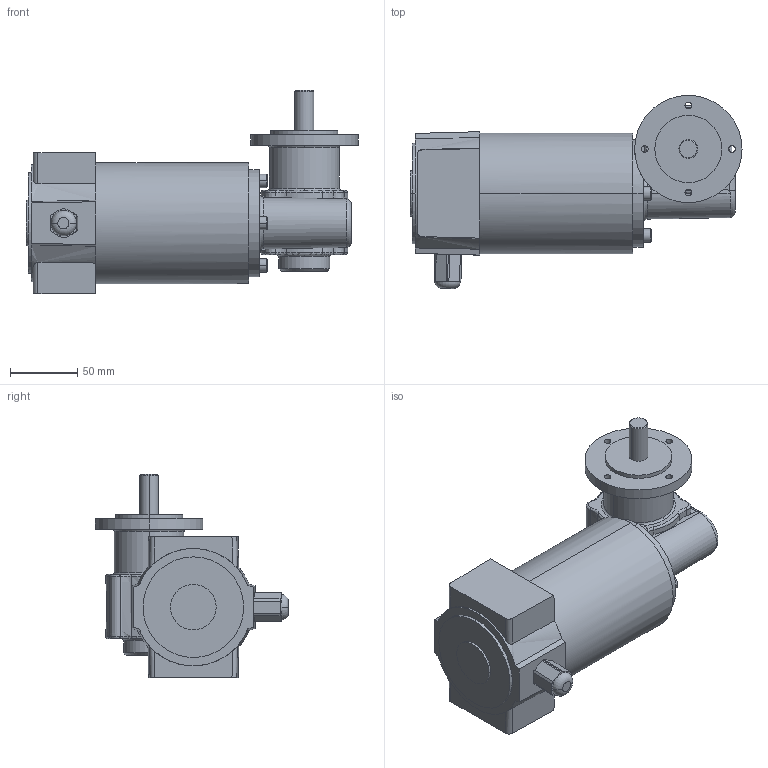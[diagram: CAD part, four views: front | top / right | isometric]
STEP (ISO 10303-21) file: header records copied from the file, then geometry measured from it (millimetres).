
FILE_DESCRIPTION(('OneSpaceDesigner STEP Export'),'2;1');
FILE_NAME('EPG21_GF133.stp','2008-07-10T 8:33:34',(''),(''),'OneSpace Designer STEP processor (Jan. 2003) for AP214(CD)(Solid Model)','OneSpace Designer 12.01D 09-Jul-2004 (C) CoCreate Software GmbH','');
FILE_SCHEMA(('AUTOMOTIVE_DESIGN_CC2 {1 2 10303 214 -1 1 5 1}'));
Length unit declared in the file: millimetre
Products named in the file (2): EPG21_GF133
Assembly tree (1 placements, depth 2):
  EPG21_GF133
    EPG21_GF133
Bounding box: 247.5 x 143.99 x 151.5 mm (x, y, z)
Volume: 1528063.4 mm3; surface area: 104453.6 mm2
Topology: 1 solids, 1 shells, 180 faces, 460 edges, 296 vertices
Faces by surface type: plane 48, cylinder 48, bspline 41, extrusion 25, cone 10, torus 8
Entity records: 15757 total; most frequent: CARTESIAN_POINT 12096, ORIENTED_EDGE 920, DIRECTION 468, EDGE_CURVE 460, VERTEX_POINT 296, EDGE_LOOP 202, FACE_OUTER_BOUND 180, ADVANCED_FACE 180
